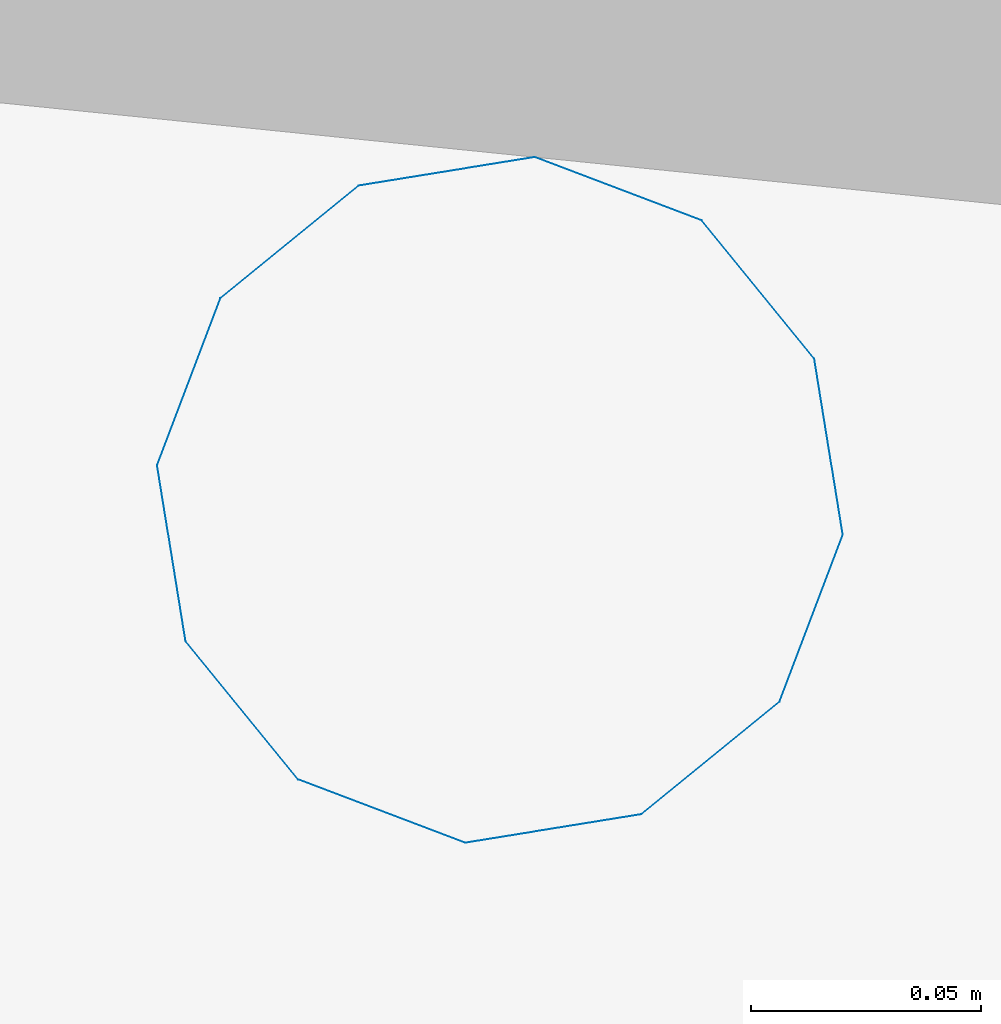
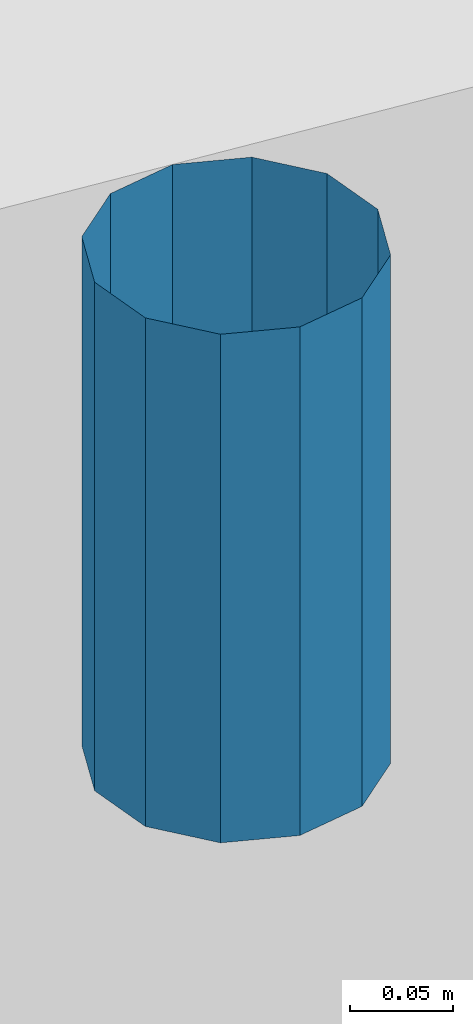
# One storey, part 38 of 41: 1 discrete accessory.
"""IFC2X3 building model written with IfcOpenShell, lengths in millimetres."""

from ifc_helpers import new_model, entity, si_unit, converted_unit, derived_unit, money_unit, direction, frame, origin_with_axes, place, context, subcontext, project, spatial, open_shell, surface_model, type_object, element, save


model = new_model("IFC2X3")

# Units and contexts
model_context = context("Model", 3, precision=0.01, world=origin_with_axes(), true_north=direction((0.0, 1.0)))
body_context = subcontext(model_context, "Body", "Model", "MODEL_VIEW")
ifc_project = project(units=[si_unit("LENGTHUNIT", "METRE", prefix="MILLI"), si_unit("AREAUNIT", "SQUARE_METRE"), si_unit("VOLUMEUNIT", "CUBIC_METRE"), converted_unit("PLANEANGLEUNIT", "DEGREE", entity("IfcPlaneAngleMeasure", 0.0174532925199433), si_unit("PLANEANGLEUNIT", "RADIAN"), dimensions=[0, 0, 0, 0, 0, 0, 0]), money_unit("USD"), converted_unit("TIMEUNIT", "Year", entity("IfcTimeMeasure", 31557600.0), si_unit("TIMEUNIT", "SECOND"), dimensions=[0, 0, 1, 0, 0, 0, 0]), si_unit("MASSUNIT", "GRAM", prefix="KILO"), si_unit("THERMODYNAMICTEMPERATUREUNIT", "DEGREE_CELSIUS"), si_unit("LUMINOUSINTENSITYUNIT", "LUMEN"), si_unit("ENERGYUNIT", "JOULE", prefix="MEGA"), derived_unit("THERMALCONDUCTANCEUNIT", [(si_unit("POWERUNIT", "WATT"), 1), (si_unit("LENGTHUNIT", "METRE"), -1), (si_unit("THERMODYNAMICTEMPERATUREUNIT", "KELVIN"), -1)]), derived_unit("SPECIFICHEATCAPACITYUNIT", [(si_unit("ENERGYUNIT", "JOULE"), 1), (si_unit("MASSUNIT", "GRAM", prefix="KILO"), -1), (si_unit("THERMODYNAMICTEMPERATUREUNIT", "KELVIN"), -1)]), derived_unit("MASSDENSITYUNIT", [(si_unit("MASSUNIT", "GRAM", prefix="KILO"), 1), (si_unit("VOLUMEUNIT", "CUBIC_METRE"), -1)])], contexts=[model_context])

# Site, building, storey
site_placement = place(None, origin_with_axes())
site = spatial("IfcSite", under=ifc_project, at=site_placement, Name="Site", CompositionType="ELEMENT")
building_placement = place(site_placement, origin_with_axes())
building = spatial("IfcBuilding", under=site, at=building_placement, Name="Bâtiment", CompositionType="ELEMENT")
storey_placement = place(building_placement, origin_with_axes())
storey = spatial("IfcBuildingStorey", under=building, at=storey_placement, Name="sousol", CompositionType="ELEMENT", Elevation=0.0)

# Discrete accessory
discrete_accessory_type = type_object("IfcDiscreteAccessoryType", Name="Tuyau descente 27")
discrete_accessory_placement = place(storey_placement, frame((2225509.952194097, -605001.337394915, 2700.0), z_axis=(0.0, 0.0, 1.0), x_axis=(-0.9948759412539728, 0.1011032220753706, 0.0)))
element("IfcDiscreteAccessory", 1, at=discrete_accessory_placement, inside=storey, type_object=discrete_accessory_type, Name="Obj.-318", context=body_context, shape_type="SurfaceModel", body=[
    surface_model("IfcShellBasedSurfaceModel", [(-75.0, 0.0, 300.0), (-75.0, 0.0, 0.0), (-64.9519052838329, -37.49999999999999, 0.0), (-64.9519052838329, -37.49999999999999, 300.0), (-64.95190528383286, 37.50000000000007, 300.0), (-64.95190528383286, 37.50000000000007, 0.0), (-37.50000000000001, -64.95190528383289, 0.0), (-37.50000000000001, -64.95190528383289, 300.0), (-37.49999999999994, 64.95190528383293, 300.0), (-37.49999999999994, 64.95190528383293, 0.0), (0.0, -75.0, 0.0), (0.0, -75.0, 300.0), (0.0, 75.0, 300.0), (0.0, 75.0, 0.0), (37.49999999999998, -64.9519052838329, 0.0), (37.49999999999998, -64.9519052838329, 300.0), (37.50000000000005, 64.95190528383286, 300.0), (37.50000000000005, 64.95190528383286, 0.0), (64.95190528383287, -37.50000000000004, 0.0), (64.95190528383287, -37.50000000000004, 300.0), (64.95190528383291, 37.49999999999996, 300.0), (64.95190528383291, 37.49999999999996, 0.0), (75.0, 0.0, 0.0), (75.0, 0.0, 300.0)], [open_shell([[[0, 1, 2, 3]], [[4, 5, 1, 0]], [[3, 2, 6, 7]], [[8, 9, 5, 4]], [[7, 6, 10, 11]], [[12, 13, 9, 8]], [[11, 10, 14, 15]], [[16, 17, 13, 12]], [[15, 14, 18, 19]], [[20, 21, 17, 16]], [[19, 18, 22, 23]], [[23, 22, 21, 20]]])]),
])

save(model, "model.ifc")
